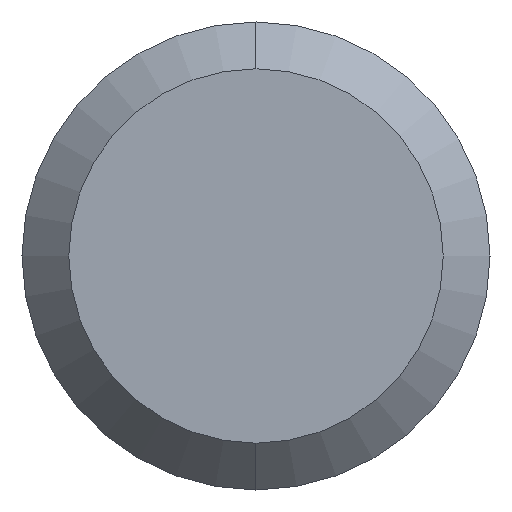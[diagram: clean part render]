
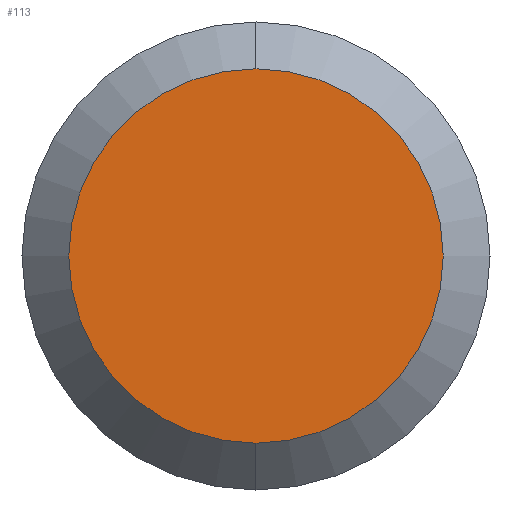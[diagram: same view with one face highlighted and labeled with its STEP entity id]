
A CAD part, left-side view. The second image highlights one B-rep face of the part: STEP entity #113.
In plain terms, the highlighted planar face has unit normal (-1, 0, 0).
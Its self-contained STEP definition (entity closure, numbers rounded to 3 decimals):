
#26 = DIRECTION ( 'NONE',  ( 0., 0., 1. ) ) ;
#37 = EDGE_LOOP ( 'NONE', ( #355, #418 ) ) ;
#52 = DIRECTION ( 'NONE',  ( 1., 0., 0. ) ) ;
#59 = DIRECTION ( 'NONE',  ( -1., 0., 0. ) ) ;
#91 = CARTESIAN_POINT ( 'NONE',  ( 0., 0., 0. ) ) ;
#93 = VERTEX_POINT ( 'NONE', #307 ) ;
#96 = CARTESIAN_POINT ( 'NONE',  ( 0., 0., 0. ) ) ;
#112 = AXIS2_PLACEMENT_3D ( 'NONE', #91, #247, #26 ) ;
#113 = ADVANCED_FACE ( 'NONE', ( #270 ), #363, .F. ) ;
#146 = EDGE_CURVE ( 'NONE', #93, #389, #253, .T. ) ;
#152 = EDGE_CURVE ( 'NONE', #389, #93, #156, .T. ) ;
#156 = CIRCLE ( 'NONE', #112, 2.4 ) ;
#197 = CARTESIAN_POINT ( 'NONE',  ( 0., 2.4, 0. ) ) ;
#247 = DIRECTION ( 'NONE',  ( -1., 0., 0. ) ) ;
#253 = CIRCLE ( 'NONE', #279, 2.4 ) ;
#256 = AXIS2_PLACEMENT_3D ( 'NONE', #197, #52, #299 ) ;
#270 = FACE_OUTER_BOUND ( 'NONE', #37, .T. ) ;
#277 = DIRECTION ( 'NONE',  ( 0., 0., 1. ) ) ;
#279 = AXIS2_PLACEMENT_3D ( 'NONE', #96, #59, #277 ) ;
#299 = DIRECTION ( 'NONE',  ( 0., 0., -1. ) ) ;
#307 = CARTESIAN_POINT ( 'NONE',  ( 0., 0., -2.4 ) ) ;
#355 = ORIENTED_EDGE ( 'NONE', *, *, #146, .T. ) ;
#363 = PLANE ( 'NONE',  #256 ) ;
#364 = CARTESIAN_POINT ( 'NONE',  ( 0., 0., 2.4 ) ) ;
#389 = VERTEX_POINT ( 'NONE', #364 ) ;
#418 = ORIENTED_EDGE ( 'NONE', *, *, #152, .T. ) ;
